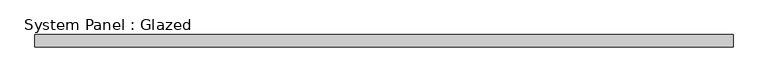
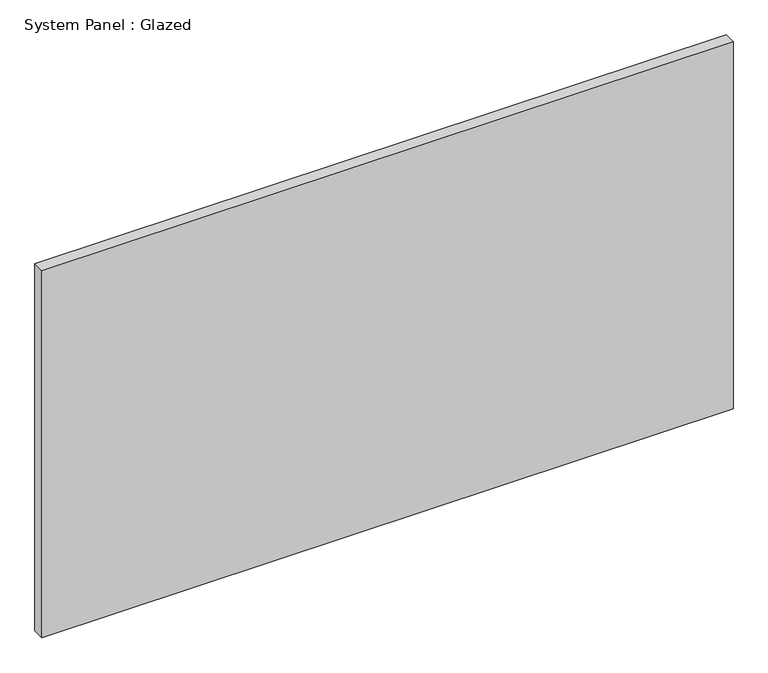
"""IFC4 building model written with IfcOpenShell, lengths in millimetres: plate geometry, System Panel : Glazed."""

from ifc_helpers import new_model, si_unit, origin, origin_with_axes, place, context, project, spatial, polyline, outline, extrude, source, transform, mapped, element, save


def system_panel_glazed_0488a078(model_context):
    return source(origin(), model_context, "Body", "SweptSolid", [
        extrude(outline(polyline([(703.9062501, 24.5), (-703.9062501, 24.5), (-703.9062501, 49.5), (703.9062501, 49.5), (703.9062501, 24.5)])), origin_with_axes(), (0.0, 0.0, 1.0), 790.0),
    ])


if __name__ == "__main__":
    model = new_model("IFC4")
    model_context = context("Model", 3, world=origin())
    ifc_project = project(units=[si_unit("LENGTHUNIT", "METRE", prefix="MILLI")], contexts=[model_context])
    site = spatial("IfcSite", under=ifc_project)
    building = spatial("IfcBuilding", under=site)
    placement = place(None, origin())
    system_panel_glazed_shape = system_panel_glazed_0488a078(model_context)
    element("IfcPlate", 1, ObjectType="System Panel : Glazed", at=placement, inside=building, context=model_context, shape_type="MappedRepresentation", body=[
        mapped(system_panel_glazed_shape, transform((0.0, 0.0, 0.0), x_axis=(1.0, 0.0, 0.0), y_axis=(0.0, 1.0, 0.0), z_axis=(0.0, 0.0, 1.0))),
    ])
    save(model, "model.ifc")
